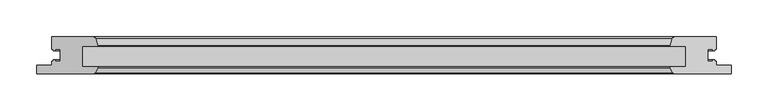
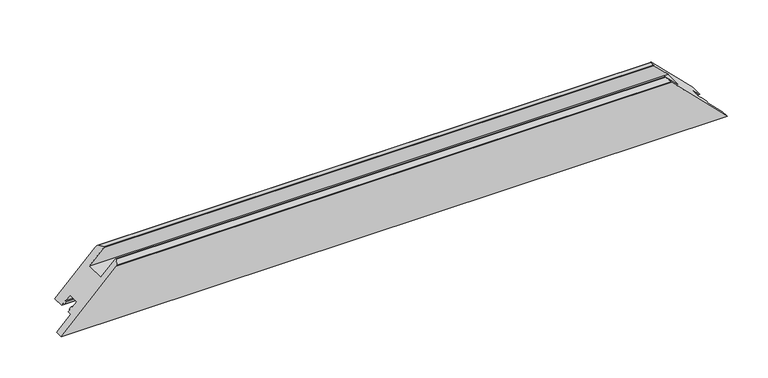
"""IFC4 building model written with IfcOpenShell, lengths in millimetres: proxy geometry, Weiku - Montante - Folha 02.2.01.017 : Weiku - Montante - Folha 02.2.01.017."""

from ifc_helpers import new_model, si_unit, frame, origin, place, context, project, spatial, ellipse_curve, source, transform, mapped, element, save
from ifc_brep_helpers import plane_surface, cylinder_surface, advanced_brep


def generic_models_d04d6e8c(model_context):
    return source(origin(), model_context, "Body", "AdvancedBrep", [
        advanced_brep(
        [(-450.75, 50.0, 20.0), (-393.7497332, 50.0, 77.0002668), (393.7497332, 50.0, 77.0002668), (450.75, 50.0, 20.0), (-470.75, 0.0, 0.0), (470.75, 0.0, 0.0), (392.7372264, 0.0, 78.0127736), (-392.7372264, 0.0, 78.0127736), (-450.75, 33.1, 20.0), (-448.55, 33.1, 22.2), (-448.55, 31.1, 22.2), (-445.75, 31.1, 25.0), (-445.75, 33.1, 25.0), (-439.25, 33.1, 31.5), (-439.25, 16.9, 31.5), (-445.75, 16.9, 25.0), (-445.75, 18.9, 25.0), (-448.55, 18.9, 22.2), (-448.55, 16.9, 22.2), (-450.75, 16.9, 20.0), (-450.75, 11.5, 20.0), (-470.75, 11.5, 0.0), (-391.8432657, 0.5518546, 78.9067343), (-388.3012796, 7.617411, 82.4487204), (-389.4634285, 9.5, 81.2865715), (-409.25, 9.5, 61.5), (-409.25, 37.5, 61.5), (-388.75, 37.5, 82.0), (-388.2670371, 38.1294095, 82.4829629), (-390.8519557, 47.7764571, 79.8980443), (390.8519557, 47.7764571, 79.8980443), (388.2670371, 38.1294095, 82.4829629), (388.75, 37.5, 82.0), (409.25, 37.5, 61.5), (409.25, 9.5, 61.5), (389.4634285, 9.5, 81.2865715), (388.3012796, 7.617411, 82.4487204), (391.8432657, 0.5518546, 78.9067343), (470.75, 11.5, 0.0), (450.75, 11.5, 20.0), (450.75, 16.9, 20.0), (448.55, 16.9, 22.2), (448.55, 18.9, 22.2), (445.75, 18.9, 25.0), (445.75, 16.9, 25.0), (439.25, 16.9, 31.5), (439.25, 33.1, 31.5), (445.75, 33.1, 25.0), (445.75, 31.1, 25.0), (448.55, 31.1, 22.2), (448.55, 33.1, 22.2), (450.75, 33.1, 20.0)],
        [
            (0, 1),
            (1, 2),
            (2, 3),
            (3, 0),
            (4, 5),
            (5, 6),
            (6, 7),
            (7, 4),
            (0, 8),
            (8, 9),
            (9, 10),
            (10, 11),
            (11, 12),
            (12, 13),
            (13, 14),
            (14, 15),
            (15, 16),
            (16, 17),
            (17, 18),
            (18, 19),
            (19, 20),
            (20, 21),
            (21, 4),
            (7, 22, ellipse_curve(frame((-392.7372264, 1.0, 78.0127736), z_axis=(-0.7071067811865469, 0.0, 0.7071067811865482), x_axis=(-0.707106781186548, 0.0, -0.7071067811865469)), 1.4142136, 1.0)),
            (22, 23),
            (23, 24, ellipse_curve(frame((-389.4634285, 8.2, 81.2865715), z_axis=(-0.7071067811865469, 0.0, 0.7071067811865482), x_axis=(-0.707106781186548, 0.0, -0.7071067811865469)), 1.8384776, 1.3)),
            (24, 25),
            (25, 26),
            (26, 27),
            (27, 28, ellipse_curve(frame((-388.75, 38.0, 82.0), z_axis=(-0.7071067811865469, 0.0, 0.7071067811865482), x_axis=(-0.707106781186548, 0.0, -0.7071067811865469)), 0.7071068, 0.5)),
            (28, 29),
            (29, 1, ellipse_curve(frame((-393.7497332, 47.0, 77.0002668), z_axis=(-0.7071067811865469, 0.0, 0.7071067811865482), x_axis=(-0.707106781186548, 0.0, -0.7071067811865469)), 4.2426407, 3.0)),
            (2, 30, ellipse_curve(frame((393.7497332, 47.0, 77.0002668), z_axis=(0.7071067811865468, 0.0, 0.7071067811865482), x_axis=(-0.7071067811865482, 0.0, 0.7071067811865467)), 4.2426407, 3.0)),
            (30, 31),
            (31, 32, ellipse_curve(frame((388.75, 38.0, 82.0), z_axis=(0.7071067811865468, 0.0, 0.7071067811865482), x_axis=(-0.7071067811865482, 0.0, 0.7071067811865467)), 0.7071068, 0.5)),
            (32, 33),
            (33, 34),
            (34, 35),
            (35, 36, ellipse_curve(frame((389.4634285, 8.2, 81.2865715), z_axis=(0.7071067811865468, 0.0, 0.7071067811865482), x_axis=(-0.7071067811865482, 0.0, 0.7071067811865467)), 1.8384776, 1.3)),
            (36, 37),
            (37, 6, ellipse_curve(frame((392.7372264, 1.0, 78.0127736), z_axis=(0.7071067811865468, 0.0, 0.7071067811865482), x_axis=(-0.7071067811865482, 0.0, 0.7071067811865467)), 1.4142136, 1.0)),
            (5, 38),
            (38, 39),
            (39, 40),
            (40, 41),
            (41, 42),
            (42, 43),
            (43, 44),
            (44, 45),
            (45, 46),
            (46, 47),
            (47, 48),
            (48, 49),
            (49, 50),
            (50, 51),
            (51, 3),
            (37, 22),
            (36, 23),
            (35, 24),
            (34, 25),
            (33, 26),
            (32, 27),
            (31, 28),
            (30, 29),
            (51, 8),
            (50, 9),
            (49, 10),
            (48, 11),
            (47, 12),
            (46, 13),
            (45, 14),
            (44, 15),
            (43, 16),
            (42, 17),
            (41, 18),
            (40, 19),
            (39, 20),
            (38, 21),
        ],
        [
            plane_surface(frame((-470.75, 50.0, 77.0002668), z_axis=(0.0, 1.0, 0.0), x_axis=(1.0, 0.0, 0.0))),
            plane_surface(frame((-470.75, 0.0, 0.0), z_axis=(0.0, -1.0, 0.0), x_axis=(1.0, 0.0, 0.0))),
            plane_surface(frame((-499.0342712, 0.0, -28.2842712), z_axis=(-0.7071067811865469, 0.0, 0.7071067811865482), x_axis=(0.0, 1.0, 0.0))),
            plane_surface(frame((380.75, 0.0, 90.0), z_axis=(0.7071067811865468, 0.0, 0.7071067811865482), x_axis=(0.0, 1.0, 0.0))),
            cylinder_surface(frame((-470.75, 1.0, 78.0127736), z_axis=(-1.0, 0.0, 0.0), x_axis=(0.0, 1.0, 0.0)), 1.0),
            plane_surface(frame((-470.75, 0.5518546, 78.9067343), z_axis=(0.0, -0.4481453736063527, 0.8939606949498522), x_axis=(1.0, 0.0, 0.0))),
            cylinder_surface(frame((-470.75, 8.2, 81.2865715), z_axis=(-1.0, 0.0, 0.0), x_axis=(0.0, 1.0, 0.0)), 1.3),
            plane_surface(frame((-470.75, 9.5, 81.2865715), z_axis=(0.0, 1.0, 0.0), x_axis=(1.0, 0.0, 0.0))),
            plane_surface(frame((-470.75, 9.5, 61.5), z_axis=(0.0, 0.0, 1.0), x_axis=(1.0, 0.0, 0.0))),
            plane_surface(frame((-470.75, 37.5, 61.5), z_axis=(0.0, -1.0, 0.0), x_axis=(1.0, 0.0, 0.0))),
            cylinder_surface(frame((-470.75, 38.0, 82.0), z_axis=(-1.0, 0.0, 0.0), x_axis=(0.0, 1.0, 0.0)), 0.5),
            plane_surface(frame((-470.75, 38.1294095, 82.4829629), z_axis=(0.0, 0.2588190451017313, 0.9659258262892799), x_axis=(1.0, 0.0, 0.0))),
            cylinder_surface(frame((-470.75, 47.0, 77.0002668), z_axis=(-1.0, 0.0, 0.0), x_axis=(0.0, 1.0, 0.0)), 3.0),
            plane_surface(frame((-470.75, 50.0, 20.0), z_axis=(0.0, 0.0, -1.0), x_axis=(1.0, 0.0, 0.0))),
            plane_surface(frame((-470.75, 33.1, 20.0), z_axis=(0.0, -1.0, 0.0), x_axis=(1.0, 0.0, 0.0))),
            plane_surface(frame((-470.75, 33.1, 22.2), z_axis=(0.0, 0.0, -1.0), x_axis=(1.0, 0.0, 0.0))),
            plane_surface(frame((-470.75, 31.1, 22.2), z_axis=(0.0, -1.0, 0.0), x_axis=(1.0, 0.0, 0.0))),
            plane_surface(frame((-470.75, 31.1, 25.0), z_axis=(0.0, 0.0, 1.0), x_axis=(1.0, 0.0, 0.0))),
            plane_surface(frame((-470.75, 33.1, 25.0), z_axis=(0.0, -1.0, 0.0), x_axis=(1.0, 0.0, 0.0))),
            plane_surface(frame((-470.75, 33.1, 31.5), z_axis=(0.0, 0.0, -1.0), x_axis=(1.0, 0.0, 0.0))),
            plane_surface(frame((-470.75, 16.9, 31.5), z_axis=(0.0, 1.0, 0.0), x_axis=(1.0, 0.0, 0.0))),
            plane_surface(frame((-470.75, 16.9, 25.0), z_axis=(0.0, 0.0, 1.0), x_axis=(1.0, 0.0, 0.0))),
            plane_surface(frame((-470.75, 18.9, 25.0), z_axis=(0.0, 1.0, 0.0), x_axis=(1.0, 0.0, 0.0))),
            plane_surface(frame((-470.75, 18.9, 22.2), z_axis=(0.0, 0.0, -1.0), x_axis=(1.0, 0.0, 0.0))),
            plane_surface(frame((-470.75, 16.9, 22.2), z_axis=(0.0, 1.0, 0.0), x_axis=(1.0, 0.0, 0.0))),
            plane_surface(frame((-470.75, 16.9, 20.0), z_axis=(0.0, 0.0, -1.0), x_axis=(1.0, 0.0, 0.0))),
            plane_surface(frame((-470.75, 11.5, 20.0), z_axis=(0.0, 1.0, 0.0), x_axis=(1.0, 0.0, 0.0))),
            plane_surface(frame((-470.75, 11.5, 0.0), z_axis=(0.0, 0.0, -1.0), x_axis=(1.0, 0.0, 0.0))),
        ],
        [
            (0, [[1, 2, 3, 4]]),
            (1, [[5, 6, 7, 8]]),
            (2, [[-1, 9, 10, 11, 12, 13, 14, 15, 16, 17, 18, 19, 20, 21, 22, 23, -8, 24, 25, 26, 27, 28, 29, 30, 31, 32]]),
            (3, [[-3, 33, 34, 35, 36, 37, 38, 39, 40, 41, -6, 42, 43, 44, 45, 46, 47, 48, 49, 50, 51, 52, 53, 54, 55, 56]]),
            (4, [[-24, -7, -41, 57]]),
            (5, [[-25, -57, -40, 58]]),
            (6, [[-26, -58, -39, 59]]),
            (7, [[-27, -59, -38, 60]]),
            (8, [[-28, -60, -37, 61]]),
            (9, [[-29, -61, -36, 62]]),
            (10, [[-30, -62, -35, 63]]),
            (11, [[-31, -63, -34, 64]]),
            (12, [[-32, -64, -33, -2]]),
            (13, [[-9, -4, -56, 65]]),
            (14, [[-10, -65, -55, 66]]),
            (15, [[-11, -66, -54, 67]]),
            (16, [[-12, -67, -53, 68]]),
            (17, [[-13, -68, -52, 69]]),
            (18, [[-14, -69, -51, 70]]),
            (19, [[-15, -70, -50, 71]]),
            (20, [[-16, -71, -49, 72]]),
            (21, [[-17, -72, -48, 73]]),
            (22, [[-18, -73, -47, 74]]),
            (23, [[-19, -74, -46, 75]]),
            (24, [[-20, -75, -45, 76]]),
            (25, [[-21, -76, -44, 77]]),
            (26, [[78, -22, -77, -43]]),
            (27, [[-5, -23, -78, -42]]),
        ],
    ),
    ])


if __name__ == "__main__":
    model = new_model("IFC4")
    model_context = context("Model", 3, world=origin())
    ifc_project = project(units=[si_unit("LENGTHUNIT", "METRE", prefix="MILLI")], contexts=[model_context])
    site = spatial("IfcSite", under=ifc_project)
    building = spatial("IfcBuilding", under=site)
    placement = place(None, origin())
    generic_models_shape = generic_models_d04d6e8c(model_context)
    element("IfcBuildingElementProxy", 1, Name="Weiku - Montante - Folha 02.2.01.017 : Weiku - Montante - Folha 02.2.01.017", ObjectType="Weiku - Montante - Folha 02.2.01.017 : Weiku - Montante - Folha 02.2.01.017", at=placement, inside=building, context=model_context, shape_type="MappedRepresentation", body=[
        mapped(generic_models_shape, transform((0.0, 0.0, 0.0), x_axis=(1.0, 0.0, 0.0), y_axis=(0.0, 1.0, 0.0), z_axis=(0.0, 0.0, 1.0))),
    ])
    save(model, "model.ifc")
